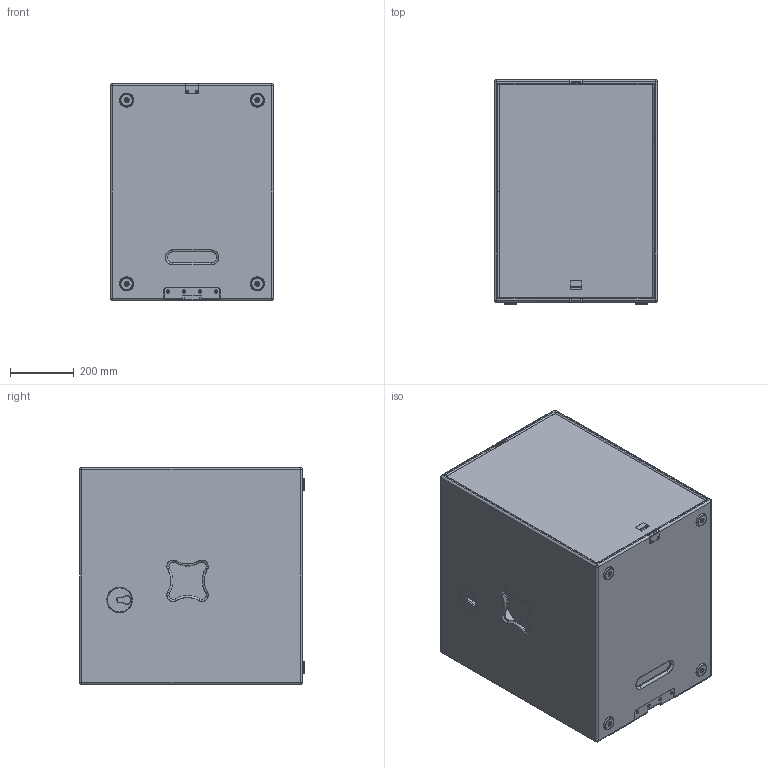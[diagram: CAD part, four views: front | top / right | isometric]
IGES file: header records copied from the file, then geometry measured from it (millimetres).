
Start section: SolidWorks IGES file using analytic representation for surfaces
Global section: file name: C:\Dokumente und Einstellungen\PC_Fabian\Desktop\TS-Serie\Seeburg_TSE4030.IGS; native system: SolidWorks 2009; preprocessor: SolidWorks 2009; author: PC_Fabian; date: 121017.130748; units: millimetre
Bounding box: 512 x 704 x 680 mm (x, y, z)
Surface area: 5062744.1 mm2 (no closed solid volume)
Topology: 0 solids, 0 shells, 949 faces, 12853 edges, 12849 vertices
Faces by surface type: revolution 506, bspline 443
